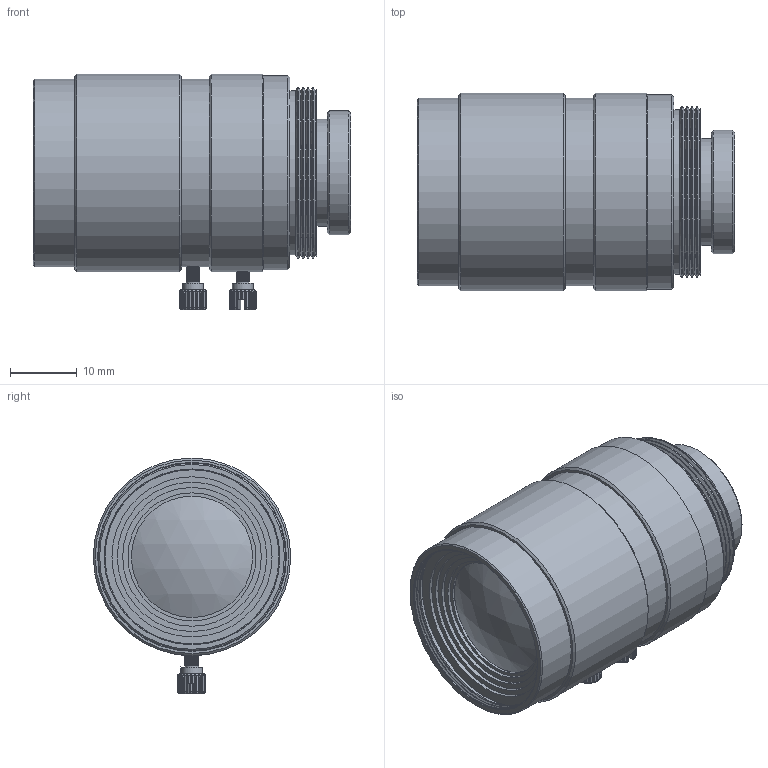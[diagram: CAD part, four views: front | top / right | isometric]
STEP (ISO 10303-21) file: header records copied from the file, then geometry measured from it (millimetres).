
FILE_DESCRIPTION(/* description */ ('TCL 0814 5MP'),/* implementation_level */ '2;1');
FILE_NAME(/* name */ 'D:\1_Konstruktion\1_KUNDEN\TIS\199-15_Objektive_Step-Dateien für Endkundem\C-Objektive (8x)\Lens_TCL 0814 5MP.stp',/* time_stamp */ '2016-01-28T19:58:16+01:00',/* author */ ('khw'),/* organization */ (''),/* preprocessor_version */ 'ST-DEVELOPER v15.2',/* originating_system */ 'Autodesk Inventor 2014',/* authorisation */ '6767,5 mm^3');
FILE_SCHEMA (('AUTOMOTIVE_DESIGN { 1 0 10303 214 3 1 1 }'));
Length unit declared in the file: millimetre
Products named in the file (1): Lens_TCL 0814 5MP
Bounding box: 47.36 x 29.5 x 35.22 mm (x, y, z)
Volume: 7462 mm3; surface area: 15762.2 mm2
Topology: 3 solids, 4 shells, 765 faces, 2391 edges, 1327 vertices
Faces by surface type: bspline 323, cylinder 235, plane 146, cone 52, sphere 5, torus 4
Full cylindrical faces by diameter (mm): 2 x37, 3.1 x2, 8.897 x1, 11.5 x1, 13 x2, 16 x1, 17 x1, 17.597 x1, 18.11 x1, 18.5 x1, 19 x1, 19.11 x1, 19.6 x2, 20.71 x1, 21.4 x1, 21.7 x1, 22 x3, 22.31 x1, 23 x2, 23.6 x1, 23.91 x1, 24 x1, 24.5 x4, 24.8 x1, 25 x8, 25.5 x5, 25.6 x5, 26 x4, 27 x2, 27.5 x1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
Entity records: 65773 total; most frequent: CARTESIAN_POINT 47998, ORIENTED_EDGE 4138, DIRECTION 2916, EDGE_CURVE 2069, AXIS2_PLACEMENT_3D 1290, VERTEX_POINT 1267, CIRCLE 876, EDGE_LOOP 866
